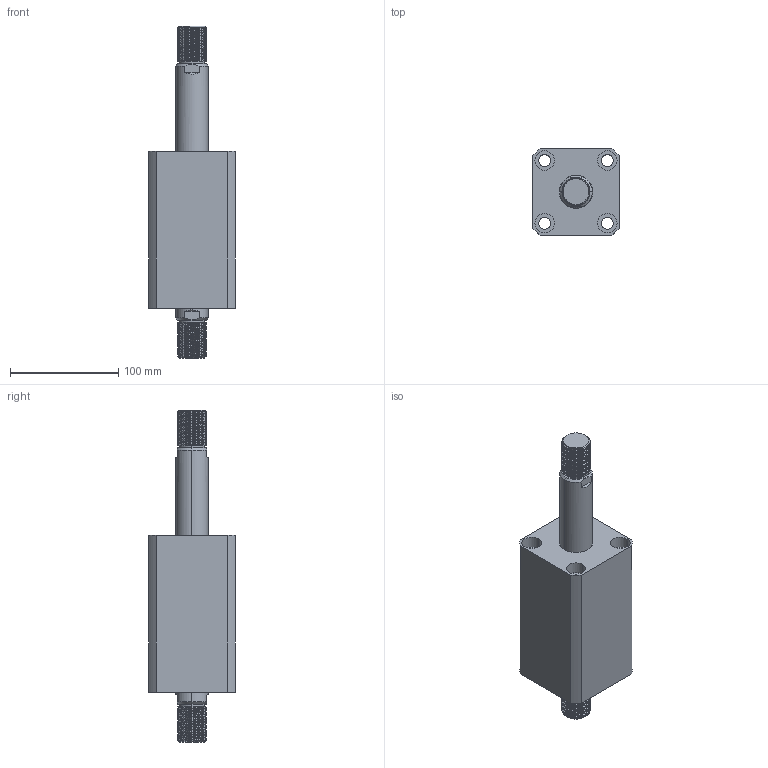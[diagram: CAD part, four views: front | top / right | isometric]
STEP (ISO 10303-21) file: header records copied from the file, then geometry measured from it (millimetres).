
FILE_DESCRIPTION (( 'STEP AP203' ), '1' );
FILE_NAME ('CHTB-SW50-70W.STEP', '2018-05-21T06:56:35', ( '' ), ( '' ), 'SwSTEP 2.0', 'SolidWorks 2015', '' );
FILE_SCHEMA (( 'CONFIG_CONTROL_DESIGN' ));
Length unit declared in the file: millimetre
Products named in the file (4): CHTB-SW50-70W; ヶ裔; 掛极SW50-70W; 活塞杆SW50-70W
Assembly tree (3 placements, depth 2):
  CHTB-SW50-70W
    掛极SW50-70W
    活塞杆SW50-70W
    ヶ裔
Bounding box: 80 x 80 x 307 mm (x, y, z)
Volume: 849023.5 mm3; surface area: 153284.7 mm2
Topology: 3 solids, 3 shells, 314 faces, 794 edges, 514 vertices
Faces by surface type: cylinder 202, plane 51, cone 29, torus 24, bspline 8
Entity records: 17377 total; most frequent: CARTESIAN_POINT 10049, ORIENTED_EDGE 1580, DIRECTION 1358, EDGE_CURVE 790, AXIS2_PLACEMENT_3D 549, VERTEX_POINT 514, EDGE_LOOP 362, FACE_OUTER_BOUND 314
